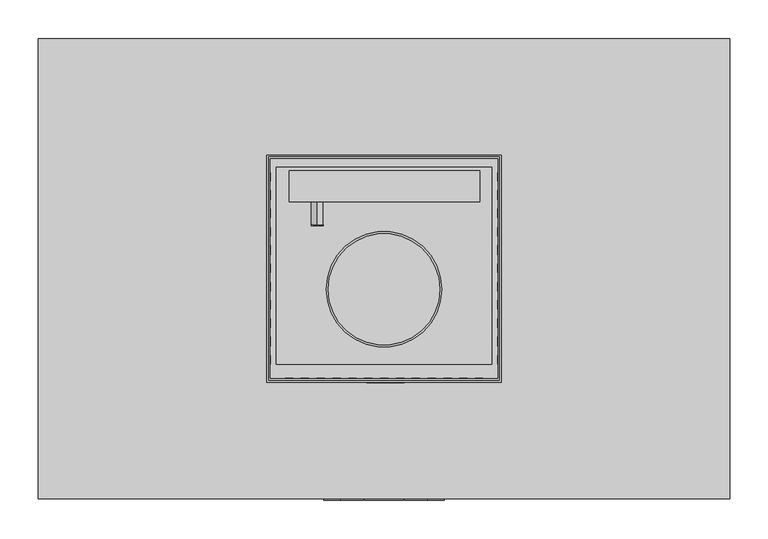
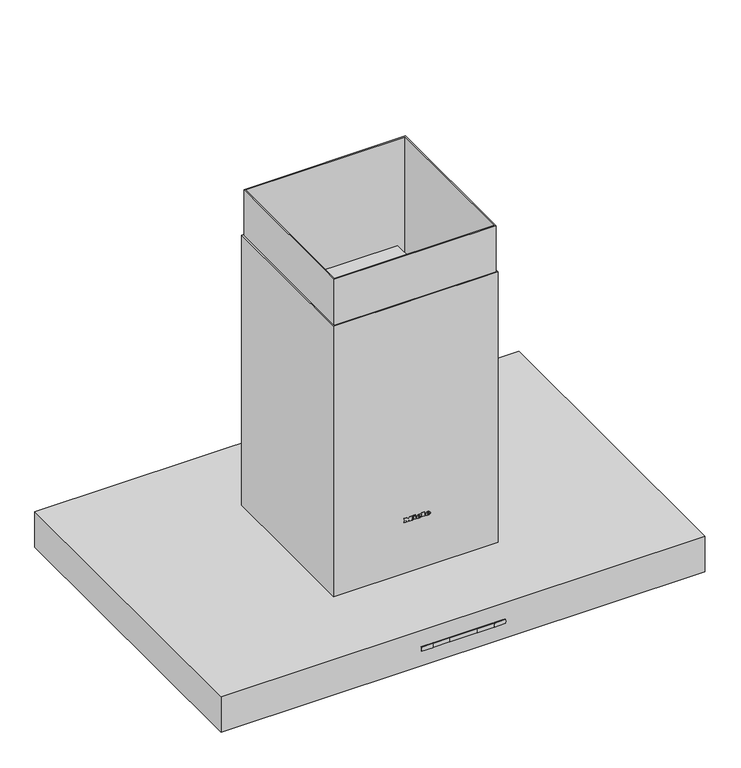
"""IFC4 building model written with IfcOpenShell, lengths in millimetres: proxy geometry, 11275060_BR_PUR98D_EDST : 28410857_BR_11275060_PUR98D_EDST."""

from ifc_helpers import new_model, si_unit, point, frame, frame_2d, origin, place, context, project, spatial, polyline, circle_curve, ellipse_curve, trimmed, segment, composite_curve, outline, extrude, faceted_brep, source, transform, mapped, element, save
from ifc_brep_helpers import plane_surface, cylinder_surface, revolved_surface, extruded_surface, advanced_brep


def specialty_equipment_68ee86d1(model_context):
    return source(origin(), model_context, "Body", "SolidModel", [
        advanced_brep(
        [(-370.0, -170.0, 7.0), (-343.4101907, -170.0, 11.6885008), (-396.5898093, -170.0, 2.3114992), (-343.9261123, -170.0, 10.5821033), (-395.7265913, -170.0, 1.4482812), (-369.8263518, -170.0, 6.0151922)],
        [
            (0, 1),
            (1, 2, circle_curve(frame((-370.0, -170.0, 7.0), z_axis=(-0.173648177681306, 0.0, 0.9848077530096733), x_axis=(0.9848077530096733, 0.0, 0.173648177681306)), 27.0)),
            (2, 0),
            (2, 1, circle_curve(frame((-370.0, -170.0, 7.0), z_axis=(-0.173648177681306, 0.0, 0.9848077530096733), x_axis=(0.9848077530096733, 0.0, 0.173648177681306)), 27.0)),
            (1, 3),
            (3, 4, circle_curve(frame((-369.8263518, -170.0, 6.0151922), z_axis=(-0.173648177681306, 0.0, 0.9848077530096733), x_axis=(0.9848077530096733, 0.0, 0.173648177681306)), 26.2997925)),
            (4, 2),
            (4, 3, circle_curve(frame((-369.8263518, -170.0, 6.0151922), z_axis=(-0.173648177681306, 0.0, 0.9848077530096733), x_axis=(0.9848077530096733, 0.0, 0.173648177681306)), 26.2997925)),
            (3, 5),
            (5, 4),
        ],
        [
            plane_surface(frame((-370.0, -170.0, 7.0), z_axis=(-0.173648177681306, 0.0, 0.9848077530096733), x_axis=(0.9848077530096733, 0.0, 0.173648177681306))),
            revolved_surface(polyline([(-343.9261123, -170.0, 10.5821033), (-343.4101907, -170.0, 11.6885008)]), (-370.0, -170.0, 7.0), (-0.173648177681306, 0.0, 0.9848077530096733)),
            plane_surface(frame((-369.8263518, -170.0, 6.0151922), z_axis=(0.173648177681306, 0.0, -0.9848077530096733), x_axis=(0.9848077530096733, 0.0, 0.173648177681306))),
        ],
        [
            (0, [[1, 2, 3]]),
            (0, [[-3, 4, -1]]),
            (1, [[-2, 5, 6, 7]]),
            (1, [[-4, -7, 8, -5]]),
            (2, [[-6, 9, 10]]),
            (2, [[-8, -10, -9]]),
        ],
    ),
        advanced_brep(
        [(-396.5898093, 170.0, 2.3114992), (-343.4101907, 170.0, 11.6885008), (-370.0, 170.0, 7.0), (-395.7265913, 170.0, 1.4482812), (-343.9261123, 170.0, 10.5821033), (-369.8263518, 170.0, 6.0151922)],
        [
            (0, 1, circle_curve(frame((-370.0, 170.0, 7.0), z_axis=(-0.17364817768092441, 0.0, 0.9848077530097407), x_axis=(0.9848077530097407, 0.0, 0.17364817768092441)), 27.0)),
            (1, 2),
            (2, 0),
            (1, 0, circle_curve(frame((-370.0, 170.0, 7.0), z_axis=(-0.17364817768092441, 0.0, 0.9848077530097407), x_axis=(0.9848077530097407, 0.0, 0.17364817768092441)), 27.0)),
            (3, 4, circle_curve(frame((-369.8263518, 170.0, 6.0151922), z_axis=(-0.17364817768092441, 0.0, 0.9848077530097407), x_axis=(0.9848077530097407, 0.0, 0.17364817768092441)), 26.2997925)),
            (4, 1),
            (0, 3),
            (4, 3, circle_curve(frame((-369.8263518, 170.0, 6.0151922), z_axis=(-0.17364817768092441, 0.0, 0.9848077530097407), x_axis=(0.9848077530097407, 0.0, 0.17364817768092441)), 26.2997925)),
            (5, 4),
            (3, 5),
        ],
        [
            plane_surface(frame((-370.0, 170.0, 7.0), z_axis=(-0.17364817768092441, 0.0, 0.9848077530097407), x_axis=(0.9848077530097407, 0.0, 0.17364817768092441))),
            revolved_surface(polyline([(-343.4101907, 170.0, 11.6885008), (-343.9261123, 170.0, 10.5821033)]), (-370.0, 170.0, 7.0), (0.17364817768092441, 0.0, -0.9848077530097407)),
            plane_surface(frame((-369.8263518, 170.0, 6.0151922), z_axis=(0.17364817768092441, 0.0, -0.9848077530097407), x_axis=(0.9848077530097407, 0.0, 0.17364817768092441))),
        ],
        [
            (0, [[1, 2, 3]]),
            (0, [[4, -3, -2]]),
            (1, [[5, 6, -1, 7]]),
            (1, [[8, -7, -4, -6]]),
            (2, [[9, -5, 10]]),
            (2, [[-10, -8, -9]]),
        ],
    ),
        advanced_brep(
        [(396.5898093, -170.0, 2.3114992), (343.4101907, -170.0, 11.6885008), (370.0, -170.0, 7.0), (395.7265913, -170.0, 1.4482812), (343.9261123, -170.0, 10.5821033), (369.8263518, -170.0, 6.0151922)],
        [
            (0, 1, circle_curve(frame((370.0, -170.0, 7.0), z_axis=(0.17364817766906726, 0.0, 0.9848077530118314), x_axis=(-0.9848077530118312, 0.0, 0.17364817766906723)), 27.0)),
            (1, 2),
            (2, 0),
            (1, 0, circle_curve(frame((370.0, -170.0, 7.0), z_axis=(0.17364817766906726, 0.0, 0.9848077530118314), x_axis=(-0.9848077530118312, 0.0, 0.17364817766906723)), 27.0)),
            (3, 4, circle_curve(frame((369.8263518, -170.0, 6.0151922), z_axis=(0.17364817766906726, 0.0, 0.9848077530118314), x_axis=(-0.9848077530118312, 0.0, 0.17364817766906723)), 26.2997925)),
            (4, 1),
            (0, 3),
            (4, 3, circle_curve(frame((369.8263518, -170.0, 6.0151922), z_axis=(0.17364817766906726, 0.0, 0.9848077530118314), x_axis=(-0.9848077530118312, 0.0, 0.17364817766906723)), 26.2997925)),
            (5, 4),
            (3, 5),
        ],
        [
            plane_surface(frame((370.0, -170.0, 7.0), z_axis=(0.17364817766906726, 0.0, 0.9848077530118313), x_axis=(-0.9848077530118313, 0.0, 0.17364817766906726))),
            revolved_surface(polyline([(343.4101907, -170.0, 11.6885008), (343.9261123, -170.0, 10.5821033)]), (370.0, -170.0, 7.0), (-0.17364817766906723, 0.0, -0.9848077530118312)),
            plane_surface(frame((369.8263518, -170.0, 6.0151922), z_axis=(-0.17364817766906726, 0.0, -0.9848077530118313), x_axis=(-0.9848077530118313, 0.0, 0.17364817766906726))),
        ],
        [
            (0, [[1, 2, 3]]),
            (0, [[4, -3, -2]]),
            (1, [[5, 6, -1, 7]]),
            (1, [[8, -7, -4, -6]]),
            (2, [[9, -5, 10]]),
            (2, [[-10, -8, -9]]),
        ],
    ),
        advanced_brep(
        [(370.0, 170.0, 7.0), (343.4101907, 170.0, 11.6885008), (396.5898093, 170.0, 2.3114992), (343.9261123, 170.0, 10.5821033), (395.7265913, 170.0, 1.4482812), (369.8263518, 170.0, 6.0151922)],
        [
            (0, 1),
            (1, 2, circle_curve(frame((370.0, 170.0, 7.0), z_axis=(0.17364817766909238, 0.0, 0.984807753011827), x_axis=(-0.9848077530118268, 0.0, 0.17364817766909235)), 27.0)),
            (2, 0),
            (2, 1, circle_curve(frame((370.0, 170.0, 7.0), z_axis=(0.17364817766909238, 0.0, 0.984807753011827), x_axis=(-0.9848077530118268, 0.0, 0.17364817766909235)), 27.0)),
            (1, 3),
            (3, 4, circle_curve(frame((369.8263518, 170.0, 6.0151922), z_axis=(0.17364817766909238, 0.0, 0.984807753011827), x_axis=(-0.9848077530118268, 0.0, 0.17364817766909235)), 26.2997925)),
            (4, 2),
            (4, 3, circle_curve(frame((369.8263518, 170.0, 6.0151922), z_axis=(0.17364817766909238, 0.0, 0.984807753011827), x_axis=(-0.9848077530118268, 0.0, 0.17364817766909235)), 26.2997925)),
            (3, 5),
            (5, 4),
        ],
        [
            plane_surface(frame((370.0, 170.0, 7.0), z_axis=(0.17364817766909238, 0.0, 0.9848077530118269), x_axis=(-0.9848077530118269, 0.0, 0.17364817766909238))),
            revolved_surface(polyline([(343.9261123, 170.0, 10.5821033), (343.4101907, 170.0, 11.6885008)]), (370.0, 170.0, 7.0), (0.17364817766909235, 0.0, 0.9848077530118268)),
            plane_surface(frame((369.8263518, 170.0, 6.0151922), z_axis=(-0.17364817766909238, 0.0, -0.9848077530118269), x_axis=(-0.9848077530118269, 0.0, 0.17364817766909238))),
        ],
        [
            (0, [[1, 2, 3]]),
            (0, [[-3, 4, -1]]),
            (1, [[-2, 5, 6, 7]]),
            (1, [[-4, -7, 8, -5]]),
            (2, [[-6, 9, 10]]),
            (2, [[-8, -10, -9]]),
        ],
    ),
        faceted_brep([(-128.5, -142.5, 295.0), (-128.5, -145.0, 295.0), (-128.5, -145.0, 195.0), (-128.5, -142.5, 195.0), (150.0, 124.5, 295.0), (147.5, 124.5, 295.0), (147.5, 124.5, 195.0), (150.0, 124.5, 195.0), (-150.0, -145.0, 690.0), (-150.0, 145.0, 690.0), (-150.0, 145.0, 150.0), (-150.0, -145.0, 150.0), (-150.0, -124.5, 295.0), (-150.0, -124.5, 195.0), (-150.0, -112.6, 195.0), (-150.0, -112.6, 295.0), (-150.0, 124.5, 195.0), (-150.0, 124.5, 295.0), (-150.0, 113.5, 295.0), (-150.0, 113.5, 195.0), (-150.0, -100.7, 195.0), (-150.0, -88.8, 195.0), (-150.0, -88.8, 295.0), (-150.0, -100.7, 295.0), (-150.0, -65.0, 195.0), (-150.0, -65.0, 295.0), (-150.0, -76.9, 295.0), (-150.0, -76.9, 195.0), (-150.0, -53.1, 195.0), (-150.0, -41.2, 195.0), (-150.0, -41.2, 295.0), (-150.0, -53.1, 295.0), (-150.0, -29.3, 195.0), (-150.0, -17.4, 195.0), (-150.0, -17.4, 295.0), (-150.0, -29.3, 295.0), (-150.0, -5.5, 195.0), (-150.0, 6.4, 195.0), (-150.0, 6.4, 295.0), (-150.0, -5.5, 295.0), (-150.0, 30.2, 195.0), (-150.0, 30.2, 295.0), (-150.0, 18.3, 295.0), (-150.0, 18.3, 195.0), (-150.0, 42.1, 195.0), (-150.0, 54.0, 195.0), (-150.0, 54.0, 295.0), (-150.0, 42.1, 295.0), (-150.0, 77.8, 195.0), (-150.0, 77.8, 295.0), (-150.0, 65.9, 295.0), (-150.0, 65.9, 195.0), (-150.0, 89.7, 195.0), (-150.0, 101.6, 195.0), (-150.0, 101.6, 295.0), (-150.0, 89.7, 295.0), (147.5, -142.5, 690.0), (147.5, 142.5, 690.0), (147.5, 142.5, 150.0), (147.5, -142.5, 150.0), (147.5, -124.5, 295.0), (147.5, -124.5, 195.0), (147.5, -112.6, 195.0), (147.5, -112.6, 295.0), (147.5, 113.5, 295.0), (147.5, 113.5, 195.0), (147.5, -100.7, 295.0), (147.5, -100.7, 195.0), (147.5, -88.8, 195.0), (147.5, -88.8, 295.0), (147.5, -76.9, 295.0), (147.5, -76.9, 195.0), (147.5, -65.0, 195.0), (147.5, -65.0, 295.0), (147.5, -53.1, 295.0), (147.5, -53.1, 195.0), (147.5, -41.2, 195.0), (147.5, -41.2, 295.0), (147.5, -5.5, 295.0), (147.5, -5.5, 195.0), (147.5, 6.4, 195.0), (147.5, 6.4, 295.0), (147.5, -29.3, 295.0), (147.5, -29.3, 195.0), (147.5, -17.4, 195.0), (147.5, -17.4, 295.0), (147.5, 18.3, 295.0), (147.5, 18.3, 195.0), (147.5, 30.2, 195.0), (147.5, 30.2, 295.0), (147.5, 42.1, 295.0), (147.5, 42.1, 195.0), (147.5, 54.0, 195.0), (147.5, 54.0, 295.0), (147.5, 65.9, 295.0), (147.5, 65.9, 195.0), (147.5, 77.8, 195.0), (147.5, 77.8, 295.0), (147.5, 89.7, 295.0), (147.5, 89.7, 195.0), (147.5, 101.6, 195.0), (147.5, 101.6, 295.0), (150.0, -145.0, 690.0), (150.0, -145.0, 150.0), (128.5, -145.0, 295.0), (128.5, -145.0, 195.0), (118.7, -145.0, 195.0), (118.7, -145.0, 295.0), (-118.2, -145.0, 295.0), (-118.2, -145.0, 195.0), (-107.9, -145.0, 295.0), (-97.6, -145.0, 295.0), (-97.6, -145.0, 195.0), (-107.9, -145.0, 195.0), (-87.3, -145.0, 295.0), (-77.0, -145.0, 295.0), (-77.0, -145.0, 195.0), (-87.3, -145.0, 195.0), (-66.7, -145.0, 295.0), (-56.4, -145.0, 295.0), (-56.4, -145.0, 195.0), (-66.7, -145.0, 195.0), (-46.1, -145.0, 295.0), (-35.8, -145.0, 295.0), (-35.8, -145.0, 195.0), (-46.1, -145.0, 195.0), (-25.5, -145.0, 295.0), (-15.2, -145.0, 295.0), (-15.2, -145.0, 195.0), (-25.5, -145.0, 195.0), (15.7, -145.0, 295.0), (26.0, -145.0, 295.0), (26.0, -145.0, 195.0), (15.7, -145.0, 195.0), (98.1, -145.0, 295.0), (108.4, -145.0, 295.0), (108.4, -145.0, 195.0), (98.1, -145.0, 195.0), (36.3, -145.0, 295.0), (46.6, -145.0, 295.0), (46.6, -145.0, 195.0), (36.3, -145.0, 195.0), (-4.9, -145.0, 295.0), (5.4, -145.0, 295.0), (5.4, -145.0, 195.0), (-4.9, -145.0, 195.0), (56.9, -145.0, 295.0), (67.2, -145.0, 295.0), (67.2, -145.0, 195.0), (56.9, -145.0, 195.0), (77.5, -145.0, 295.0), (87.8, -145.0, 295.0), (87.8, -145.0, 195.0), (77.5, -145.0, 195.0), (-147.5, 142.5, 690.0), (-147.5, 142.5, 150.0), (150.0, 145.0, 690.0), (-147.5, -142.5, 690.0), (150.0, 145.0, 150.0), (-147.5, -142.5, 150.0), (128.5, -142.5, 195.0), (128.5, -142.5, 295.0), (118.7, -142.5, 295.0), (118.7, -142.5, 195.0), (-118.2, -142.5, 195.0), (-118.2, -142.5, 295.0), (-97.6, -142.5, 295.0), (-107.9, -142.5, 295.0), (-107.9, -142.5, 195.0), (-97.6, -142.5, 195.0), (-77.0, -142.5, 295.0), (-87.3, -142.5, 295.0), (-87.3, -142.5, 195.0), (-77.0, -142.5, 195.0), (-56.4, -142.5, 295.0), (-66.7, -142.5, 295.0), (-66.7, -142.5, 195.0), (-56.4, -142.5, 195.0), (-35.8, -142.5, 295.0), (-46.1, -142.5, 295.0), (-46.1, -142.5, 195.0), (-35.8, -142.5, 195.0), (-15.2, -142.5, 295.0), (-25.5, -142.5, 295.0), (-25.5, -142.5, 195.0), (-15.2, -142.5, 195.0), (5.4, -142.5, 295.0), (-4.9, -142.5, 295.0), (-4.9, -142.5, 195.0), (5.4, -142.5, 195.0), (26.0, -142.5, 295.0), (15.7, -142.5, 295.0), (15.7, -142.5, 195.0), (26.0, -142.5, 195.0), (46.6, -142.5, 295.0), (36.3, -142.5, 295.0), (36.3, -142.5, 195.0), (46.6, -142.5, 195.0), (67.2, -142.5, 295.0), (56.9, -142.5, 295.0), (56.9, -142.5, 195.0), (67.2, -142.5, 195.0), (87.8, -142.5, 295.0), (77.5, -142.5, 295.0), (77.5, -142.5, 195.0), (87.8, -142.5, 195.0), (108.4, -142.5, 295.0), (98.1, -142.5, 295.0), (98.1, -142.5, 195.0), (108.4, -142.5, 195.0), (-147.5, -124.5, 195.0), (-147.5, -124.5, 295.0), (-147.5, -112.6, 295.0), (-147.5, -112.6, 195.0), (-147.5, 124.5, 295.0), (-147.5, 124.5, 195.0), (-147.5, 113.5, 195.0), (-147.5, 113.5, 295.0), (-147.5, -88.8, 195.0), (-147.5, -100.7, 195.0), (-147.5, -100.7, 295.0), (-147.5, -88.8, 295.0), (-147.5, -65.0, 295.0), (-147.5, -65.0, 195.0), (-147.5, -76.9, 195.0), (-147.5, -76.9, 295.0), (-147.5, -41.2, 195.0), (-147.5, -53.1, 195.0), (-147.5, -53.1, 295.0), (-147.5, -41.2, 295.0), (-147.5, -17.4, 195.0), (-147.5, -29.3, 195.0), (-147.5, -29.3, 295.0), (-147.5, -17.4, 295.0), (-147.5, 6.4, 195.0), (-147.5, -5.5, 195.0), (-147.5, -5.5, 295.0), (-147.5, 6.4, 295.0), (-147.5, 30.2, 295.0), (-147.5, 30.2, 195.0), (-147.5, 18.3, 195.0), (-147.5, 18.3, 295.0), (-147.5, 54.0, 195.0), (-147.5, 42.1, 195.0), (-147.5, 42.1, 295.0), (-147.5, 54.0, 295.0), (-147.5, 77.8, 295.0), (-147.5, 77.8, 195.0), (-147.5, 65.9, 195.0), (-147.5, 65.9, 295.0), (-147.5, 101.6, 195.0), (-147.5, 89.7, 195.0), (-147.5, 89.7, 295.0), (-147.5, 101.6, 295.0), (150.0, 113.5, 195.0), (150.0, 113.5, 295.0), (150.0, -124.5, 195.0), (150.0, -124.5, 295.0), (150.0, -112.6, 295.0), (150.0, -112.6, 195.0), (150.0, -100.7, 195.0), (150.0, -100.7, 295.0), (150.0, -88.8, 295.0), (150.0, -88.8, 195.0), (150.0, -76.9, 195.0), (150.0, -76.9, 295.0), (150.0, -65.0, 295.0), (150.0, -65.0, 195.0), (150.0, -53.1, 195.0), (150.0, -53.1, 295.0), (150.0, -41.2, 295.0), (150.0, -41.2, 195.0), (150.0, -29.3, 195.0), (150.0, -29.3, 295.0), (150.0, -17.4, 295.0), (150.0, -17.4, 195.0), (150.0, -5.5, 195.0), (150.0, -5.5, 295.0), (150.0, 6.4, 295.0), (150.0, 6.4, 195.0), (150.0, 18.3, 195.0), (150.0, 18.3, 295.0), (150.0, 30.2, 295.0), (150.0, 30.2, 195.0), (150.0, 42.1, 195.0), (150.0, 42.1, 295.0), (150.0, 54.0, 295.0), (150.0, 54.0, 195.0), (150.0, 65.9, 195.0), (150.0, 65.9, 295.0), (150.0, 77.8, 295.0), (150.0, 77.8, 195.0), (150.0, 89.7, 195.0), (150.0, 89.7, 295.0), (150.0, 101.6, 295.0), (150.0, 101.6, 195.0)], [[[0, 1, 2, 3]], [[4, 5, 6, 7]], [[8, 9, 10, 11], [12, 13, 14, 15], [16, 17, 18, 19], [20, 21, 22, 23], [24, 25, 26, 27], [28, 29, 30, 31], [32, 33, 34, 35], [36, 37, 38, 39], [40, 41, 42, 43], [44, 45, 46, 47], [48, 49, 50, 51], [52, 53, 54, 55]], [[56, 57, 58, 59], [60, 61, 62, 63], [6, 5, 64, 65], [66, 67, 68, 69], [70, 71, 72, 73], [74, 75, 76, 77], [78, 79, 80, 81], [82, 83, 84, 85], [86, 87, 88, 89], [90, 91, 92, 93], [94, 95, 96, 97], [98, 99, 100, 101]], [[102, 8, 11, 103], [104, 105, 106, 107], [2, 1, 108, 109], [110, 111, 112, 113], [114, 115, 116, 117], [118, 119, 120, 121], [122, 123, 124, 125], [126, 127, 128, 129], [130, 131, 132, 133], [134, 135, 136, 137], [138, 139, 140, 141], [142, 143, 144, 145], [146, 147, 148, 149], [150, 151, 152, 153]], [[57, 154, 155, 58]], [[8, 102, 156, 9], [57, 56, 157, 154]], [[11, 10, 158, 103], [58, 155, 159, 59]], [[157, 56, 59, 159], [160, 161, 162, 163], [0, 3, 164, 165], [166, 167, 168, 169], [170, 171, 172, 173], [174, 175, 176, 177], [178, 179, 180, 181], [182, 183, 184, 185], [186, 187, 188, 189], [190, 191, 192, 193], [194, 195, 196, 197], [198, 199, 200, 201], [202, 203, 204, 205], [206, 207, 208, 209]], [[154, 157, 159, 155], [210, 211, 212, 213], [214, 215, 216, 217], [218, 219, 220, 221], [222, 223, 224, 225], [226, 227, 228, 229], [230, 231, 232, 233], [234, 235, 236, 237], [238, 239, 240, 241], [242, 243, 244, 245], [246, 247, 248, 249], [250, 251, 252, 253]], [[156, 102, 103, 158], [4, 7, 254, 255], [256, 257, 258, 259], [260, 261, 262, 263], [264, 265, 266, 267], [268, 269, 270, 271], [272, 273, 274, 275], [276, 277, 278, 279], [280, 281, 282, 283], [284, 285, 286, 287], [288, 289, 290, 291], [292, 293, 294, 295]], [[9, 156, 158, 10]], [[160, 105, 104, 161]], [[256, 61, 60, 257]], [[210, 13, 12, 211]], [[214, 17, 16, 215]], [[62, 259, 258, 63]], [[5, 4, 255, 64]], [[64, 255, 254, 65]], [[7, 6, 65, 254]], [[260, 67, 66, 261]], [[67, 260, 263, 68]], [[68, 263, 262, 69]], [[261, 66, 69, 262]], [[264, 71, 70, 265]], [[71, 264, 267, 72]], [[72, 267, 266, 73]], [[265, 70, 73, 266]], [[268, 75, 74, 269]], [[75, 268, 271, 76]], [[76, 271, 270, 77]], [[269, 74, 77, 270]], [[272, 83, 82, 273]], [[83, 272, 275, 84]], [[84, 275, 274, 85]], [[273, 82, 85, 274]], [[276, 79, 78, 277]], [[79, 276, 279, 80]], [[80, 279, 278, 81]], [[277, 78, 81, 278]], [[280, 87, 86, 281]], [[87, 280, 283, 88]], [[88, 283, 282, 89]], [[281, 86, 89, 282]], [[284, 91, 90, 285]], [[92, 287, 286, 93]], [[285, 90, 93, 286]], [[96, 291, 290, 97]], [[289, 94, 97, 290]], [[100, 295, 294, 101]], [[293, 98, 101, 294]], [[18, 217, 216, 19]], [[13, 210, 213, 14]], [[14, 213, 212, 15]], [[211, 12, 15, 212]], [[218, 21, 20, 219]], [[21, 218, 221, 22]], [[22, 221, 220, 23]], [[219, 20, 23, 220]], [[222, 25, 24, 223]], [[25, 222, 225, 26]], [[26, 225, 224, 27]], [[223, 24, 27, 224]], [[226, 29, 28, 227]], [[29, 226, 229, 30]], [[30, 229, 228, 31]], [[227, 28, 31, 228]], [[230, 33, 32, 231]], [[33, 230, 233, 34]], [[34, 233, 232, 35]], [[231, 32, 35, 232]], [[234, 37, 36, 235]], [[37, 234, 237, 38]], [[38, 237, 236, 39]], [[235, 36, 39, 236]], [[238, 41, 40, 239]], [[41, 238, 241, 42]], [[42, 241, 240, 43]], [[239, 40, 43, 240]], [[242, 45, 44, 243]], [[46, 245, 244, 47]], [[243, 44, 47, 244]], [[50, 249, 248, 51]], [[247, 48, 51, 248]], [[54, 253, 252, 55]], [[251, 52, 55, 252]], [[108, 165, 164, 109]], [[105, 160, 163, 106]], [[106, 163, 162, 107]], [[161, 104, 107, 162]], [[166, 111, 110, 167]], [[111, 166, 169, 112]], [[112, 169, 168, 113]], [[167, 110, 113, 168]], [[170, 115, 114, 171]], [[115, 170, 173, 116]], [[116, 173, 172, 117]], [[171, 114, 117, 172]], [[174, 119, 118, 175]], [[119, 174, 177, 120]], [[120, 177, 176, 121]], [[175, 118, 121, 176]], [[178, 123, 122, 179]], [[123, 178, 181, 124]], [[124, 181, 180, 125]], [[179, 122, 125, 180]], [[182, 127, 126, 183]], [[127, 182, 185, 128]], [[128, 185, 184, 129]], [[183, 126, 129, 184]], [[186, 143, 142, 187]], [[143, 186, 189, 144]], [[144, 189, 188, 145]], [[187, 142, 145, 188]], [[190, 131, 130, 191]], [[131, 190, 193, 132]], [[132, 193, 192, 133]], [[191, 130, 133, 192]], [[194, 139, 138, 195]], [[139, 194, 197, 140]], [[140, 197, 196, 141]], [[195, 138, 141, 196]], [[61, 256, 259, 62]], [[257, 60, 63, 258]], [[91, 284, 287, 92]], [[288, 95, 94, 289]], [[95, 288, 291, 96]], [[292, 99, 98, 293]], [[99, 292, 295, 100]], [[17, 214, 217, 18]], [[215, 16, 19, 216]], [[45, 242, 245, 46]], [[246, 49, 48, 247]], [[49, 246, 249, 50]], [[250, 53, 52, 251]], [[53, 250, 253, 54]], [[1, 0, 165, 108]], [[3, 2, 109, 164]], [[198, 147, 146, 199]], [[147, 198, 201, 148]], [[148, 201, 200, 149]], [[199, 146, 149, 200]], [[202, 151, 150, 203]], [[151, 202, 205, 152]], [[152, 205, 204, 153]], [[203, 150, 153, 204]], [[206, 135, 134, 207]], [[135, 206, 209, 136]], [[136, 209, 208, 137]], [[207, 134, 137, 208]]]),
        extrude(outline(polyline([(152.5, 147.5), (152.5, -147.5), (-152.5, -147.5), (-152.5, 147.5), (152.5, 147.5)]), holes=[polyline([(-150.0, 145.0), (-150.0, -145.0), (150.0, -145.0), (150.0, 145.0), (-150.0, 145.0)])]), frame((0.0, 0.0, 70.0), z_axis=(0.0, 0.0, 1.0), x_axis=(1.0, 0.0, 0.0)), (0.0, 0.0, 1.0), 530.0),
        extrude(outline(polyline([(98.6666667, 245.0), (98.6666667, -245.0), (-98.6666667, -245.0), (-98.6666667, 245.0), (98.6666667, 245.0)])), frame((0.0, 0.0, 1.2), z_axis=(0.0, 0.0, 1.0), x_axis=(1.0, 0.0, 0.0)), (0.0, 0.0, 1.0), 6.0),
        extrude(outline(polyline([(107.6666667, 254.0), (107.6666667, -254.0), (-107.6666667, -254.0), (-107.6666667, 254.0), (107.6666667, 254.0)]), holes=[polyline([(98.6666667, 245.0), (-98.6666667, 245.0), (-98.6666667, -245.0), (98.6666667, -245.0), (98.6666667, 245.0)])]), frame((0.0, 0.0, -0.3), z_axis=(0.0, 0.0, 1.0), x_axis=(1.0, 0.0, 0.0)), (0.0, 0.0, 1.0), 9.0),
        extrude(outline(polyline([(116.6666667, 245.0), (314.0, 245.0), (314.0, -245.0), (116.6666667, -245.0), (116.6666667, 245.0)])), frame((0.0, 0.0, 1.2), z_axis=(0.0, 0.0, 1.0), x_axis=(1.0, 0.0, 0.0)), (0.0, 0.0, 1.0), 6.0),
        extrude(outline(polyline([(107.6666667, 254.0), (323.0, 254.0), (323.0, -254.0), (107.6666667, -254.0), (107.6666667, 254.0)]), holes=[polyline([(116.6666667, 245.0), (116.6666667, -245.0), (314.0, -245.0), (314.0, 245.0), (116.6666667, 245.0)])]), frame((0.0, 0.0, -0.3), z_axis=(0.0, 0.0, 1.0), x_axis=(1.0, 0.0, 0.0)), (0.0, 0.0, 1.0), 9.0),
        extrude(outline(polyline([(-116.6666667, 245.0), (-116.6666667, -245.0), (-314.0, -245.0), (-314.0, 245.0), (-116.6666667, 245.0)])), frame((0.0, 0.0, 1.2), z_axis=(0.0, 0.0, 1.0), x_axis=(1.0, 0.0, 0.0)), (0.0, 0.0, 1.0), 6.0),
        extrude(outline(polyline([(-107.6666667, 254.0), (-107.6666667, -254.0), (-323.0, -254.0), (-323.0, 254.0), (-107.6666667, 254.0)]), holes=[polyline([(-116.6666667, 245.0), (-314.0, 245.0), (-314.0, -245.0), (-116.6666667, -245.0), (-116.6666667, 245.0)])]), frame((0.0, 0.0, -0.3), z_axis=(0.0, 0.0, 1.0), x_axis=(1.0, 0.0, 0.0)), (0.0, 0.0, 1.0), 9.0),
        extrude(outline(polyline([(16.5, -202.0), (16.5, -245.0), (-16.5, -245.0), (-16.5, -202.0), (16.5, -202.0)]), holes=[polyline([(10.0, -208.5), (-10.0, -208.5), (-10.0, -217.5), (10.0, -217.5), (10.0, -208.5)])]), frame((0.0, 0.0, -0.3), z_axis=(0.0, 0.0, 1.0), x_axis=(1.0, 0.0, 0.0)), (0.0, 0.0, 1.0), 1.5),
        extrude(outline(polyline([(198.8333333, -202.0), (231.8333333, -202.0), (231.8333333, -245.0), (198.8333333, -245.0), (198.8333333, -202.0)]), holes=[polyline([(205.3333333, -208.5), (205.3333333, -217.5), (225.1047662, -217.5), (225.1047662, -208.5), (205.3333333, -208.5)])]), frame((0.0, 0.0, -0.3), z_axis=(0.0, 0.0, 1.0), x_axis=(1.0, 0.0, 0.0)), (0.0, 0.0, 1.0), 1.5),
        extrude(outline(polyline([(-198.8333333, -202.0), (-198.8333333, -245.0), (-231.8333333, -245.0), (-231.8333333, -202.0), (-198.8333333, -202.0)]), holes=[polyline([(-205.3333333, -208.5), (-225.3333333, -208.5), (-225.3333333, -217.5), (-205.3333333, -217.5), (-205.3333333, -208.5)])]), frame((0.0, 0.0, -0.3), z_axis=(0.0, 0.0, 1.0), x_axis=(1.0, 0.0, 0.0)), (0.0, 0.0, 1.0), 1.5),
        faceted_brep([(449.0, 299.0, 70.0), (-449.0, 299.0, 70.0), (-449.0, -299.0, 70.0), (449.0, -299.0, 70.0), (449.0, 299.0, 0.0), (449.0, -299.0, 0.0), (-449.0, -299.0, 0.0), (-449.0, 299.0, 0.0), (-404.0, -254.0, 0.0), (404.0, -254.0, 0.0), (404.0, 254.0, 0.0), (-404.0, 254.0, 0.0), (-404.0, -254.0, 1.5006197), (-337.522412, -254.0, 13.222412), (-326.9, -254.0, 2.6), (-323.5, -254.0, 2.6), (-323.5, -254.0, 13.7), (323.5, -254.0, 13.7), (323.5, -254.0, 2.6), (326.9, -254.0, 2.6), (337.522412, -254.0, 13.222412), (404.0, -254.0, 1.5006197), (-404.0, 254.0, 1.5006197), (404.0, 254.0, 1.5006197), (337.522412, 254.0, 13.222412), (326.9, 254.0, 2.6), (323.5, 254.0, 2.6), (323.5, 254.0, 13.7), (-323.5, 254.0, 13.7), (-323.5, 254.0, 2.6), (-326.9, 254.0, 2.6), (-337.522412, 254.0, 13.222412)], [[[0, 1, 2, 3]], [[4, 5, 6, 7], [8, 9, 10, 11]], [[1, 0, 4, 7]], [[2, 1, 7, 6]], [[3, 2, 6, 5]], [[0, 3, 5, 4]], [[12, 13, 14, 15, 16, 17, 18, 19, 20, 21, 9, 8]], [[22, 11, 10, 23, 24, 25, 26, 27, 28, 29, 30, 31]], [[12, 8, 11, 22]], [[9, 21, 23, 10]], [[19, 18, 26, 25]], [[18, 17, 27, 26]], [[17, 16, 28, 27]], [[16, 15, 29, 28]], [[15, 14, 30, 29]], [[14, 13, 31, 30]], [[21, 20, 24, 23]], [[20, 19, 25, 24]], [[13, 12, 22, 31]]]),
        extrude(outline(polyline([(402.0, -94.3772603), (402.0, -87.0), (403.2557039, -87.0), (403.2557039, -93.1215564), (406.5519266, -93.1215564), (406.5519266, -87.470889), (407.8076304, -87.470889), (407.8076304, -93.1215564), (410.7899271, -93.1215564), (410.7899271, -87.156963), (412.045631, -87.156963), (412.045631, -94.3772603), (402.0, -94.3772603)])), frame((0.0, 56.0, 0.0), z_axis=(0.0, 1.0, 0.0), x_axis=(0.0, 0.0, 1.0)), (0.0, 0.0, 1.0), 1.0),
        extrude(outline(polyline([(402.0, -85.1164442), (402.0, -78.8379248), (403.2557039, -78.8379248), (403.2557039, -83.8607403), (412.045631, -83.8607403), (412.045631, -85.1164442), (402.0, -85.1164442)])), frame((0.0, 56.0, 0.0), z_axis=(0.0, 1.0, 0.0), x_axis=(0.0, 0.0, 1.0)), (0.0, 0.0, 1.0), 1.0),
        extrude(outline(composite_curve([segment(trimmed(circle_curve(frame_2d((407.0, -87.0)), 7.5), [point((399.5, -87.0))], [point((414.5, -87.0))], False, "CARTESIAN"), True, "CONTINUOUS"), segment(trimmed(circle_curve(frame_2d((407.0, -87.0)), 7.5), [point((414.5, -87.0))], [point((399.5, -87.0))], False, "CARTESIAN"), True, "CONTINUOUS")], self_intersect=False)), frame((0.0, 57.0, 0.0), z_axis=(0.0, 1.0, 0.0), x_axis=(0.0, 0.0, 1.0)), (0.0, 0.0, 1.0), 30.0),
        extrude(outline(polyline([(124.5, 127.0), (124.5, 87.0), (-123.0, 87.0), (-123.0, 127.0), (124.5, 127.0)])), frame((0.0, 0.0, 377.0), z_axis=(0.0, 0.0, 1.0), x_axis=(1.0, 0.0, 0.0)), (0.0, 0.0, 1.0), 118.0),
        extrude(outline(composite_curve([segment(trimmed(circle_curve(frame_2d((0.0, -27.0)), 75.0), [point((-75.0, -27.0))], [point((75.0, -27.0))], False, "CARTESIAN"), True, "CONTINUOUS"), segment(trimmed(circle_curve(frame_2d((0.0, -27.0)), 75.0), [point((75.0, -27.0))], [point((-75.0, -27.0))], False, "CARTESIAN"), True, "CONTINUOUS")], self_intersect=False), holes=[composite_curve([segment(trimmed(circle_curve(frame_2d((0.0, -27.0)), 72.5), [point((-72.5, -27.0))], [point((72.5, -27.0))], True, "CARTESIAN"), True, "CONTINUOUS"), segment(trimmed(circle_curve(frame_2d((0.0, -27.0)), 72.5), [point((72.5, -27.0))], [point((-72.5, -27.0))], True, "CARTESIAN"), True, "CONTINUOUS")], self_intersect=False)]), frame((0.0, 0.0, 377.0), z_axis=(0.0, 0.0, 1.0), x_axis=(1.0, 0.0, 0.0)), (0.0, 0.0, 1.0), 58.0),
        extrude(outline(polyline([(140.0, 132.0), (140.0, -124.0), (-140.0, -124.0), (-140.0, 132.0), (140.0, 132.0)])), frame((0.0, 0.0, 70.0), z_axis=(0.0, 0.0, 1.0), x_axis=(1.0, 0.0, 0.0)), (0.0, 0.0, 1.0), 307.0),
        extrude(outline(composite_curve([segment(polyline([(-299.0, 30.0), (-300.8150871, 30.0)]), True, "CONTINUOUS"), segment(trimmed(circle_curve(frame_2d((-281.0150871, 34.0)), 20.2), [point((-300.8150871, 30.0))], [point((-300.8150871, 38.0))], False, "CARTESIAN"), True, "CONTINUOUS"), segment(polyline([(-300.8150871, 38.0), (-299.0, 38.0), (-299.0, 30.0)]), True, "CONTINUOUS")], self_intersect=False)), frame((57.0, 0.0, 0.0), z_axis=(1.0, 0.0, 0.0), x_axis=(0.0, 1.0, 0.0)), (0.0, 0.0, 1.0), 21.0),
        extrude(outline(composite_curve([segment(trimmed(circle_curve(frame_2d((-281.0150871, 34.0)), 20.2), [point((-300.8150871, 30.0))], [point((-300.8150871, 38.0))], False, "CARTESIAN"), True, "CONTINUOUS"), segment(polyline([(-300.8150871, 38.0), (-299.0, 38.0), (-299.0, 30.0), (-300.8150871, 30.0)]), True, "CONTINUOUS")], self_intersect=False)), frame((-78.0, 0.0, 0.0), z_axis=(1.0, 0.0, 0.0), x_axis=(0.0, 1.0, 0.0)), (0.0, 0.0, 1.0), 21.0),
        extrude(outline(composite_curve([segment(polyline([(-299.0, 30.0), (-300.8150871, 30.0)]), True, "CONTINUOUS"), segment(trimmed(circle_curve(frame_2d((-281.0150871, 34.0)), 20.2), [point((-300.8150871, 30.0))], [point((-300.8150871, 38.0))], False, "CARTESIAN"), True, "CONTINUOUS"), segment(polyline([(-300.8150871, 38.0), (-299.0, 38.0), (-299.0, 30.0)]), True, "CONTINUOUS")], self_intersect=False)), frame((-56.0, 0.0, 0.0), z_axis=(1.0, 0.0, 0.0), x_axis=(0.0, 1.0, 0.0)), (0.0, 0.0, 1.0), 30.0),
        extrude(outline(composite_curve([segment(polyline([(-299.0, 30.0), (-300.8150871, 30.0)]), True, "CONTINUOUS"), segment(trimmed(circle_curve(frame_2d((-281.0150871, 34.0)), 20.2), [point((-300.8150871, 30.0))], [point((-300.8150871, 38.0))], False, "CARTESIAN"), True, "CONTINUOUS"), segment(polyline([(-300.8150871, 38.0), (-299.0, 38.0), (-299.0, 30.0)]), True, "CONTINUOUS")], self_intersect=False)), frame((-25.0, 0.0, 0.0), z_axis=(1.0, 0.0, 0.0), x_axis=(0.0, 1.0, 0.0)), (0.0, 0.0, 1.0), 50.0),
        extrude(outline(composite_curve([segment(polyline([(-299.0, 30.0), (-300.8150871, 30.0)]), True, "CONTINUOUS"), segment(trimmed(circle_curve(frame_2d((-281.0150871, 34.0)), 20.2), [point((-300.8150871, 30.0))], [point((-300.8150871, 38.0))], False, "CARTESIAN"), True, "CONTINUOUS"), segment(polyline([(-300.8150871, 38.0), (-299.0, 38.0), (-299.0, 30.0)]), True, "CONTINUOUS")], self_intersect=False)), frame((26.0, 0.0, 0.0), z_axis=(1.0, 0.0, 0.0), x_axis=(0.0, 1.0, 0.0)), (0.0, 0.0, 1.0), 30.0),
        advanced_brep(
        [(21.104, -148.5, 171.896), (21.104, -148.5, 172.704), (26.456, -148.5, 172.704), (17.144, -148.5, 172.704), (19.344, -148.5, 170.0), (26.32, -148.5, 171.896), (23.904, -148.5, 171.896), (22.0, -148.5, 171.0), (21.104, -148.5, 173.728), (21.104, -148.5, 174.6), (22.472, -148.5, 174.6), (22.472, -148.5, 173.728), (21.104, -147.5, 171.896), (22.0, -147.5, 171.0), (23.904, -147.5, 171.896), (26.32, -147.5, 171.896), (19.344, -147.5, 170.0), (17.144, -147.5, 172.704), (26.456, -147.5, 172.704), (21.104, -147.5, 172.704), (21.104, -147.5, 173.728), (22.472, -147.5, 173.728), (22.472, -147.5, 174.6), (21.104, -147.5, 174.6)],
        [
            (0, 1),
            (1, 2),
            (2, 3, ellipse_curve(frame((21.8, -148.5, 172.704), z_axis=(0.0, -1.0, 0.0), x_axis=(-1.0, 0.0, 0.0)), 4.656, 3.848)),
            (3, 4, circle_curve(frame((20.2400436, -148.5, 172.976), z_axis=(0.0, -1.0, 0.0), x_axis=(0.0, 0.0, -1.0)), 3.1079688)),
            (4, 5, circle_curve(frame((21.7067936, -148.5, 175.088), z_axis=(0.0, -1.0, 0.0), x_axis=(0.0, 0.0, -1.0)), 5.6098607)),
            (5, 6),
            (6, 7, circle_curve(frame((22.3910588, -148.5, 172.64), z_axis=(0.0, 1.0, 0.0), x_axis=(0.0, 0.0, -1.0)), 1.6859795)),
            (7, 0, circle_curve(frame((22.0, -148.5, 171.896), z_axis=(0.0, 1.0, 0.0), x_axis=(0.0, 0.0, -1.0)), 0.896)),
            (8, 9),
            (9, 10, circle_curve(frame((21.788, -148.5, 174.6), z_axis=(0.0, 1.0, 0.0), x_axis=(0.0, 0.0, -1.0)), 0.684)),
            (10, 11),
            (11, 8),
            (12, 13, circle_curve(frame((22.0, -147.5, 171.896), z_axis=(0.0, -1.0, 0.0), x_axis=(0.0, 0.0, -1.0)), 0.896)),
            (13, 14, circle_curve(frame((22.3910588, -147.5, 172.64), z_axis=(0.0, -1.0, 0.0), x_axis=(0.0, 0.0, -1.0)), 1.6859795)),
            (14, 15),
            (15, 16, circle_curve(frame((21.7067936, -147.5, 175.088), z_axis=(0.0, 1.0, 0.0), x_axis=(0.0, 0.0, -1.0)), 5.6098607)),
            (16, 17, circle_curve(frame((20.2400436, -147.5, 172.976), z_axis=(0.0, 1.0, 0.0), x_axis=(0.0, 0.0, -1.0)), 3.1079688)),
            (17, 18, ellipse_curve(frame((21.8, -147.5, 172.704), z_axis=(0.0, 1.0, 0.0), x_axis=(-1.0, 0.0, 0.0)), 4.656, 3.848)),
            (18, 19),
            (19, 12),
            (20, 21),
            (21, 22),
            (22, 23, circle_curve(frame((21.788, -147.5, 174.6), z_axis=(0.0, -1.0, 0.0), x_axis=(0.0, 0.0, -1.0)), 0.684)),
            (23, 20),
            (0, 12),
            (19, 1),
            (18, 2),
            (5, 15),
            (14, 6),
            (17, 3),
            (13, 7),
            (16, 4),
            (8, 20),
            (23, 9),
            (22, 10),
            (21, 11),
        ],
        [
            plane_surface(frame((21.104, -148.5, 172.704), z_axis=(0.0, -1.0, 0.0), x_axis=(0.0, 0.0, 1.0))),
            plane_surface(frame((21.104, -147.5, 172.704), z_axis=(0.0, 1.0, 0.0), x_axis=(0.0, 0.0, -1.0))),
            plane_surface(frame((21.104, -148.5, 171.896), z_axis=(1.0, 0.0, 0.0), x_axis=(0.0, 1.0, 0.0))),
            plane_surface(frame((21.104, -148.5, 172.704), z_axis=(0.0, 0.0, -1.0), x_axis=(0.0, 1.0, 0.0))),
            plane_surface(frame((26.32, -148.5, 171.896), z_axis=(0.0, 0.0, 1.0), x_axis=(0.0, 1.0, 0.0))),
            extruded_surface(trimmed(ellipse_curve(frame((21.8, -146.5, 172.704), z_axis=(0.0, -1.0, 0.0), x_axis=(-1.0, 0.0, 0.0)), 4.656, 3.848), [point((26.456, -146.5, 172.704))], [point((17.144, -146.5, 172.704))], True, "CARTESIAN"), (0.0, -1.0, 0.0), 1.0),
            revolved_surface(polyline([(22.3910588, -147.5, 170.95402049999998), (22.3910588, -148.5, 170.95402049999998)]), (22.3910588, -147.5, 172.64), (0.0, 1.0, 0.0)),
            revolved_surface(polyline([(22.0, -147.5, 171.0), (22.0, -148.5, 171.0)]), (22.0, -147.5, 171.896), (0.0, 1.0, 0.0)),
            cylinder_surface(frame((20.2400436, -147.5, 172.976), z_axis=(0.0, -1.0, 0.0), x_axis=(0.0, 0.0, -1.0)), 3.1079688),
            cylinder_surface(frame((21.7067936, -147.5, 175.088), z_axis=(0.0, -1.0, 0.0), x_axis=(0.0, 0.0, -1.0)), 5.6098607),
            plane_surface(frame((21.104, -148.5, 173.728), z_axis=(1.0, 0.0, 0.0), x_axis=(0.0, 1.0, 0.0))),
            revolved_surface(polyline([(21.788, -147.5, 173.916), (21.788, -148.5, 173.916)]), (21.788, -147.5, 174.6), (0.0, 1.0, 0.0)),
            plane_surface(frame((22.472, -148.5, 174.6), z_axis=(-1.0, 0.0, 0.0), x_axis=(0.0, 1.0, 0.0))),
            plane_surface(frame((22.472, -148.5, 173.728), z_axis=(0.0, 0.0, 1.0), x_axis=(0.0, 1.0, 0.0))),
        ],
        [
            (0, [[1, 2, 3, 4, 5, 6, 7, 8], [9, 10, 11, 12]]),
            (1, [[13, 14, 15, 16, 17, 18, 19, 20], [21, 22, 23, 24]]),
            (2, [[-1, 25, -20, 26]]),
            (3, [[-2, -26, -19, 27]]),
            (4, [[-6, 28, -15, 29]]),
            (5, [[-3, -27, -18, 30]]),
            (6, [[-7, -29, -14, 31]]),
            (7, [[-8, -31, -13, -25]]),
            (8, [[-4, -30, -17, 32]]),
            (9, [[-5, -32, -16, -28]]),
            (10, [[-9, 33, -24, 34]]),
            (11, [[-10, -34, -23, 35]]),
            (12, [[-11, -35, -22, 36]]),
            (13, [[-12, -36, -21, -33]]),
        ],
    ),
        advanced_brep(
        [(4.408, -148.5, 171.896), (4.408, -148.5, 172.704), (9.76, -148.5, 172.704), (0.448, -148.5, 172.704), (2.648, -148.5, 170.0), (9.624, -148.5, 171.896), (7.208, -148.5, 171.896), (5.304, -148.5, 171.0), (4.408, -148.5, 173.728), (4.408, -148.5, 174.6), (5.776, -148.5, 174.6), (5.776, -148.5, 173.728), (4.408, -147.5, 171.896), (5.304, -147.5, 171.0), (7.208, -147.5, 171.896), (9.624, -147.5, 171.896), (2.648, -147.5, 170.0), (0.448, -147.5, 172.704), (9.76, -147.5, 172.704), (4.408, -147.5, 172.704), (4.408, -147.5, 173.728), (5.776, -147.5, 173.728), (5.776, -147.5, 174.6), (4.408, -147.5, 174.6)],
        [
            (0, 1),
            (1, 2),
            (2, 3, ellipse_curve(frame((5.104, -148.5, 172.704), z_axis=(0.0, -1.0, 0.0), x_axis=(-1.0, 0.0, 0.0)), 4.656, 3.848)),
            (3, 4, circle_curve(frame((3.5440436, -148.5, 172.976), z_axis=(0.0, -1.0, 0.0), x_axis=(0.0, 0.0, -1.0)), 3.1079688)),
            (4, 5, circle_curve(frame((5.0107936, -148.5, 175.088), z_axis=(0.0, -1.0, 0.0), x_axis=(0.0, 0.0, -1.0)), 5.6098607)),
            (5, 6),
            (6, 7, circle_curve(frame((5.6950588, -148.5, 172.64), z_axis=(0.0, 1.0, 0.0), x_axis=(0.0, 0.0, -1.0)), 1.6859795)),
            (7, 0, circle_curve(frame((5.304, -148.5, 171.896), z_axis=(0.0, 1.0, 0.0), x_axis=(0.0, 0.0, -1.0)), 0.896)),
            (8, 9),
            (9, 10, circle_curve(frame((5.092, -148.5, 174.6), z_axis=(0.0, 1.0, 0.0), x_axis=(0.0, 0.0, -1.0)), 0.684)),
            (10, 11),
            (11, 8),
            (12, 13, circle_curve(frame((5.304, -147.5, 171.896), z_axis=(0.0, -1.0, 0.0), x_axis=(0.0, 0.0, -1.0)), 0.896)),
            (13, 14, circle_curve(frame((5.6950588, -147.5, 172.64), z_axis=(0.0, -1.0, 0.0), x_axis=(0.0, 0.0, -1.0)), 1.6859795)),
            (14, 15),
            (15, 16, circle_curve(frame((5.0107936, -147.5, 175.088), z_axis=(0.0, 1.0, 0.0), x_axis=(0.0, 0.0, -1.0)), 5.6098607)),
            (16, 17, circle_curve(frame((3.5440436, -147.5, 172.976), z_axis=(0.0, 1.0, 0.0), x_axis=(0.0, 0.0, -1.0)), 3.1079688)),
            (17, 18, ellipse_curve(frame((5.104, -147.5, 172.704), z_axis=(0.0, 1.0, 0.0), x_axis=(-1.0, 0.0, 0.0)), 4.656, 3.848)),
            (18, 19),
            (19, 12),
            (20, 21),
            (21, 22),
            (22, 23, circle_curve(frame((5.092, -147.5, 174.6), z_axis=(0.0, -1.0, 0.0), x_axis=(0.0, 0.0, -1.0)), 0.684)),
            (23, 20),
            (0, 12),
            (19, 1),
            (18, 2),
            (5, 15),
            (14, 6),
            (17, 3),
            (13, 7),
            (16, 4),
            (8, 20),
            (23, 9),
            (22, 10),
            (21, 11),
        ],
        [
            plane_surface(frame((4.408, -148.5, 172.704), z_axis=(0.0, -1.0, 0.0), x_axis=(0.0, 0.0, 1.0))),
            plane_surface(frame((4.408, -147.5, 172.704), z_axis=(0.0, 1.0, 0.0), x_axis=(0.0, 0.0, -1.0))),
            plane_surface(frame((4.408, -148.5, 171.896), z_axis=(1.0, 0.0, 0.0), x_axis=(0.0, 1.0, 0.0))),
            plane_surface(frame((4.408, -148.5, 172.704), z_axis=(0.0, 0.0, -1.0), x_axis=(0.0, 1.0, 0.0))),
            plane_surface(frame((9.624, -148.5, 171.896), z_axis=(0.0, 0.0, 1.0), x_axis=(0.0, 1.0, 0.0))),
            extruded_surface(trimmed(ellipse_curve(frame((5.104, -146.5, 172.704), z_axis=(0.0, -1.0, 0.0), x_axis=(-1.0, 0.0, 0.0)), 4.656, 3.848), [point((9.76, -146.5, 172.704))], [point((0.448, -146.5, 172.704))], True, "CARTESIAN"), (0.0, -1.0, 0.0), 1.0),
            revolved_surface(polyline([(5.6950588, -147.5, 170.95402049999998), (5.6950588, -148.5, 170.95402049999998)]), (5.6950588, -147.5, 172.64), (0.0, 1.0, 0.0)),
            revolved_surface(polyline([(5.304, -147.5, 171.0), (5.304, -148.5, 171.0)]), (5.304, -147.5, 171.896), (0.0, 1.0, 0.0)),
            cylinder_surface(frame((3.5440436, -147.5, 172.976), z_axis=(0.0, -1.0, 0.0), x_axis=(0.0, 0.0, -1.0)), 3.1079688),
            cylinder_surface(frame((5.0107936, -147.5, 175.088), z_axis=(0.0, -1.0, 0.0), x_axis=(0.0, 0.0, -1.0)), 5.6098607),
            plane_surface(frame((4.408, -148.5, 173.728), z_axis=(1.0, 0.0, 0.0), x_axis=(0.0, 1.0, 0.0))),
            revolved_surface(polyline([(5.092, -147.5, 173.916), (5.092, -148.5, 173.916)]), (5.092, -147.5, 174.6), (0.0, 1.0, 0.0)),
            plane_surface(frame((5.776, -148.5, 174.6), z_axis=(-1.0, 0.0, 0.0), x_axis=(0.0, 1.0, 0.0))),
            plane_surface(frame((5.776, -148.5, 173.728), z_axis=(0.0, 0.0, 1.0), x_axis=(0.0, 1.0, 0.0))),
        ],
        [
            (0, [[1, 2, 3, 4, 5, 6, 7, 8], [9, 10, 11, 12]]),
            (1, [[13, 14, 15, 16, 17, 18, 19, 20], [21, 22, 23, 24]]),
            (2, [[-1, 25, -20, 26]]),
            (3, [[-2, -26, -19, 27]]),
            (4, [[-6, 28, -15, 29]]),
            (5, [[-3, -27, -18, 30]]),
            (6, [[-7, -29, -14, 31]]),
            (7, [[-8, -31, -13, -25]]),
            (8, [[-4, -30, -17, 32]]),
            (9, [[-5, -32, -16, -28]]),
            (10, [[-9, 33, -24, 34]]),
            (11, [[-10, -34, -23, 35]]),
            (12, [[-11, -35, -22, 36]]),
            (13, [[-12, -36, -21, -33]]),
        ],
    ),
        extrude(outline(polyline([(177.528, -4.336), (176.232, -3.728), (177.496, -1.016), (178.792, -1.616), (177.528, -4.336)])), frame((0.0, -148.5, 0.0), z_axis=(0.0, 1.0, 0.0), x_axis=(0.0, 0.0, 1.0)), (0.0, 0.0, 1.0), 1.0),
        extrude(outline(polyline([(176.056, -6.312), (174.624, -6.312), (174.624, -5.36), (171.344, -5.36), (171.344, -6.312), (170.0, -6.312), (170.0, 0.0), (171.344, 0.0), (171.344, -0.928), (176.056, -0.928), (176.056, -6.312)])), frame((0.0, -148.5, 0.0), z_axis=(0.0, 1.0, 0.0), x_axis=(0.0, 0.0, 1.0)), (0.0, 0.0, 1.0), 1.0),
        extrude(outline(polyline([(176.696, 10.208), (176.696, 11.168), (171.344, 11.168), (171.344, 10.208), (170.0, 10.208), (170.0, 16.696), (171.344, 16.696), (171.344, 15.712), (178.0, 15.712), (178.0, 10.208), (176.696, 10.208)])), frame((0.0, -148.5, 0.0), z_axis=(0.0, 1.0, 0.0), x_axis=(0.0, 0.0, 1.0)), (0.0, 0.0, 1.0), 1.0),
        extrude(outline(polyline([(176.696, -22.256), (176.696, -21.288), (171.344, -21.288), (171.344, -22.256), (170.0, -22.256), (170.0, -18.736), (171.344, -18.736), (171.344, -19.696), (174.7471247, -19.696), (170.0, -16.12), (174.8152223, -12.528), (171.344, -12.528), (171.344, -13.512), (170.0, -13.512), (170.0, -7.128), (171.344, -7.128), (171.344, -8.144), (176.696, -8.144), (176.696, -7.128), (178.0, -7.128), (178.0, -12.0), (175.0, -14.336), (178.0, -16.68), (178.0, -22.256), (176.696, -22.256)])), frame((0.0, -148.5, 0.0), z_axis=(0.0, 1.0, 0.0), x_axis=(0.0, 0.0, 1.0)), (0.0, 0.0, 1.0), 1.0),
    ])


if __name__ == "__main__":
    model = new_model("IFC4")
    model_context = context("Model", 3, world=origin())
    ifc_project = project(units=[si_unit("LENGTHUNIT", "METRE", prefix="MILLI")], contexts=[model_context])
    site = spatial("IfcSite", under=ifc_project)
    building = spatial("IfcBuilding", under=site)
    placement = place(None, origin())
    specialty_equipment_shape = specialty_equipment_68ee86d1(model_context)
    element("IfcBuildingElementProxy", 1, Name="11275060_BR_PUR98D_EDST : 28410857_BR_11275060_PUR98D_EDST", ObjectType="11275060_BR_PUR98D_EDST : 28410857_BR_11275060_PUR98D_EDST", at=placement, inside=building, context=model_context, shape_type="MappedRepresentation", body=[
        mapped(specialty_equipment_shape, transform((0.0, 0.0, 0.0), x_axis=(1.0, 0.0, 0.0), y_axis=(0.0, 1.0, 0.0), z_axis=(0.0, 0.0, 1.0))),
    ])
    save(model, "model.ifc")
